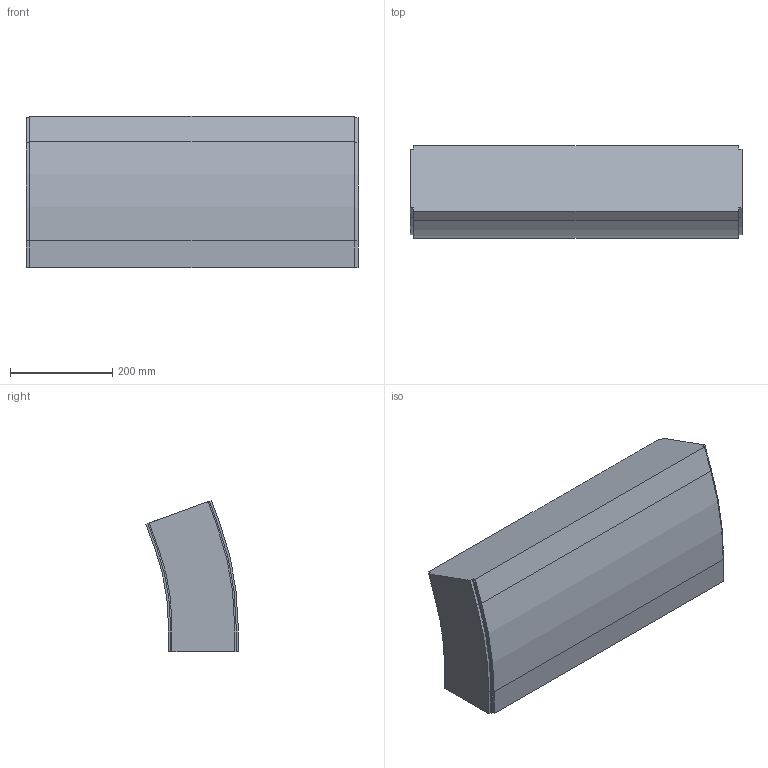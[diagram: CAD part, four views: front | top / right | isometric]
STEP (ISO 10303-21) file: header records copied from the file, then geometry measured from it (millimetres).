
FILE_DESCRIPTION (( 'STEP AP214' ), '1' );
FILE_NAME ('FS-MTC2-150-INOX verticaalbocht.650 20°.STEP', '2017-02-08T12:42:11', ( '' ), ( '' ), 'SwSTEP 2.0', 'SolidWorks 2016', '' );
FILE_SCHEMA (( 'AUTOMOTIVE_DESIGN' ));
Length unit declared in the file: millimetre
Products named in the file (1): FS-MTC2-150-INOX verticaalbocht.650 20°
Bounding box: 650.5 x 180.49 x 296.19 mm (x, y, z)
Volume: 24765848.5 mm3; surface area: 617179.3 mm2
Topology: 1 solids, 1 shells, 42 faces, 120 edges, 80 vertices
Faces by surface type: plane 32, cylinder 10
Entity records: 1398 total; most frequent: CARTESIAN_POINT 243, ORIENTED_EDGE 240, DIRECTION 226, EDGE_CURVE 120, VECTOR 100, LINE 100, VERTEX_POINT 80, AXIS2_PLACEMENT_3D 63
